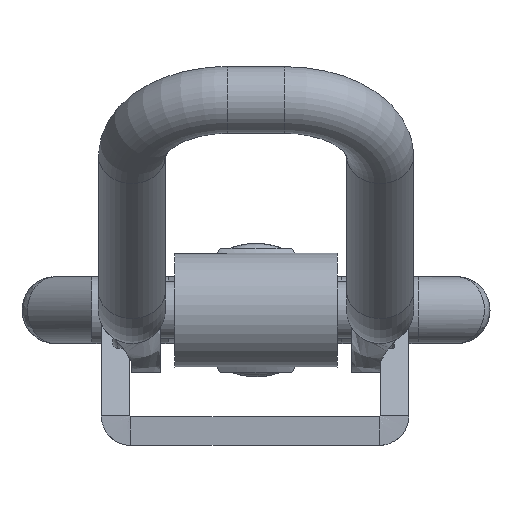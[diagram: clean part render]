
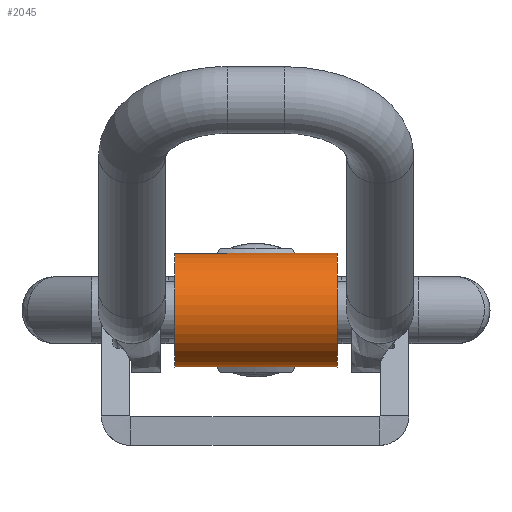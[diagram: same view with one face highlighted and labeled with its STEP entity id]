
A CAD part, front view. The second image highlights one B-rep face of the part: STEP entity #2045.
In plain terms, the highlighted cylindrical face has radius 6 mm (diameter 12 mm), a full revolution.
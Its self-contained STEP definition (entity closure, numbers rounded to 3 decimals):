
#142=B_SPLINE_CURVE_WITH_KNOTS('',3,(#7297,#7298,#7299,#7300,#7301,#7302,
#7303,#7304,#7305,#7306,#7307,#7308,#7309,#7310,#7311,#7312,#7313,#7314,
#7315),.UNSPECIFIED.,.T.,.F.,(1,1,1,1,1,1,1,1,1,1,1,1,1,1,1,1,1,1,1,1,1,
1,1),(-0.005,-0.003,-0.002,0.,
0.002,0.003,0.005,0.006,
0.008,0.01,0.011,0.013,
0.015,0.016,0.018,0.019,
0.021,0.023,0.024,0.026,
0.027,0.029,0.031),.UNSPECIFIED.);
#407=CYLINDRICAL_SURFACE('',#2312,6.);
#874=ORIENTED_EDGE('',*,*,#1177,.T.);
#875=ORIENTED_EDGE('',*,*,#1179,.T.);
#876=ORIENTED_EDGE('',*,*,#1171,.F.);
#1171=EDGE_CURVE('',#1380,#1380,#142,.T.);
#1177=EDGE_CURVE('',#1385,#1385,#1477,.T.);
#1179=EDGE_CURVE('',#1387,#1387,#1479,.T.);
#1380=VERTEX_POINT('',#7316);
#1385=VERTEX_POINT('',#7832);
#1387=VERTEX_POINT('',#7837);
#1477=CIRCLE('',#2307,6.);
#1479=CIRCLE('',#2310,6.);
#1659=EDGE_LOOP('',(#874));
#1660=EDGE_LOOP('',(#875));
#1661=EDGE_LOOP('',(#876));
#1856=FACE_BOUND('',#1659,.T.);
#1857=FACE_BOUND('',#1660,.T.);
#1858=FACE_BOUND('',#1661,.T.);
#2045=ADVANCED_FACE('',(#1856,#1857,#1858),#407,.T.);
#2307=AXIS2_PLACEMENT_3D('',#7831,#2745,#2746);
#2310=AXIS2_PLACEMENT_3D('',#7836,#2751,#2752);
#2312=AXIS2_PLACEMENT_3D('',#7839,#2755,#2756);
#2745=DIRECTION('',(1.,0.,0.));
#2746=DIRECTION('',(0.,0.707,-0.707));
#2751=DIRECTION('',(-1.,0.,0.));
#2752=DIRECTION('',(0.,0.707,0.707));
#2755=DIRECTION('',(-1.,0.,0.));
#2756=DIRECTION('',(0.,0.707,-0.707));
#7297=CARTESIAN_POINT('',(3.769,5.842,1.63));
#7298=CARTESIAN_POINT('',(4.115,6.078,-0.003));
#7299=CARTESIAN_POINT('',(3.773,5.845,-1.619));
#7300=CARTESIAN_POINT('',(2.885,5.299,-2.904));
#7301=CARTESIAN_POINT('',(1.627,4.693,-3.765));
#7302=CARTESIAN_POINT('',(0.01,4.364,-4.114));
#7303=CARTESIAN_POINT('',(-1.602,4.683,-3.777));
#7304=CARTESIAN_POINT('',(-2.878,5.294,-2.912));
#7305=CARTESIAN_POINT('',(-3.765,5.84,-1.637));
#7306=CARTESIAN_POINT('',(-4.115,6.078,-0.009));
#7307=CARTESIAN_POINT('',(-3.776,5.847,1.612));
#7308=CARTESIAN_POINT('',(-2.889,5.301,2.901));
#7309=CARTESIAN_POINT('',(-1.63,4.693,3.765));
#7310=CARTESIAN_POINT('',(-0.01,4.364,4.115));
#7311=CARTESIAN_POINT('',(1.605,4.684,3.776));
#7312=CARTESIAN_POINT('',(2.881,5.296,2.909));
#7313=CARTESIAN_POINT('',(3.769,5.842,1.63));
#7314=CARTESIAN_POINT('',(4.115,6.078,-0.003));
#7315=CARTESIAN_POINT('',(3.773,5.845,-1.619));
#7316=CARTESIAN_POINT('',(4.,6.,0.));
#7831=CARTESIAN_POINT('',(-8.5,0.,0.));
#7832=CARTESIAN_POINT('',(-8.5,4.243,-4.243));
#7836=CARTESIAN_POINT('',(8.5,0.,0.));
#7837=CARTESIAN_POINT('',(8.5,4.243,4.243));
#7839=CARTESIAN_POINT('',(8.5,0.,0.));
